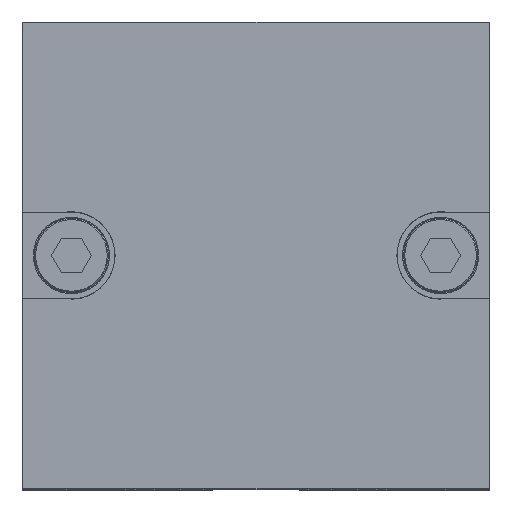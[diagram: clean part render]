
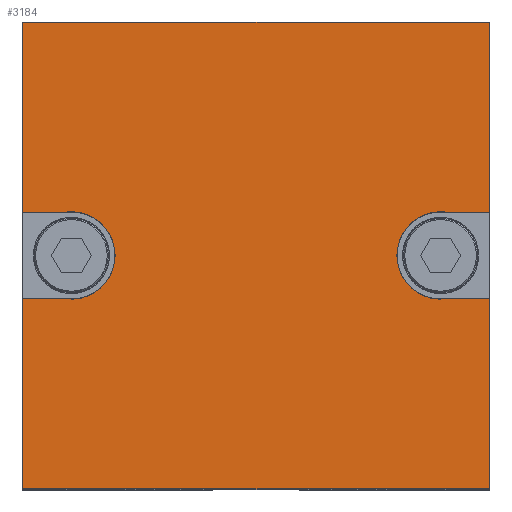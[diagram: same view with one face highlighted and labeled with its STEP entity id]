
A CAD part, top view. The second image highlights one B-rep face of the part: STEP entity #3184.
In plain terms, the highlighted planar face has unit normal (0, 0, 1).
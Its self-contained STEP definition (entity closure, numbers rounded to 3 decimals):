
#100 = CARTESIAN_POINT ( 'NONE',  ( 0., 0., 60. ) ) ;
#126 = CARTESIAN_POINT ( 'NONE',  ( -21.5, -4., 60. ) ) ;
#135 = VERTEX_POINT ( 'NONE', #6075 ) ;
#188 = ORIENTED_EDGE ( 'NONE', *, *, #1343, .T. ) ;
#217 = ORIENTED_EDGE ( 'NONE', *, *, #6146, .F. ) ;
#248 = CARTESIAN_POINT ( 'NONE',  ( 21.5, 21.5, 60. ) ) ;
#288 = VECTOR ( 'NONE', #6555, 1000. ) ;
#289 = CARTESIAN_POINT ( 'NONE',  ( -21.5, 4., 60. ) ) ;
#490 = CIRCLE ( 'NONE', #4621, 4.025 ) ;
#520 = VERTEX_POINT ( 'NONE', #8628 ) ;
#707 = VERTEX_POINT ( 'NONE', #1634 ) ;
#801 = CARTESIAN_POINT ( 'NONE',  ( -26., -4., 60. ) ) ;
#828 = CARTESIAN_POINT ( 'NONE',  ( 17.448, -4., 60. ) ) ;
#935 = EDGE_CURVE ( 'NONE', #2917, #135, #8279, .T. ) ;
#1035 = VECTOR ( 'NONE', #6581, 1000. ) ;
#1052 = LINE ( 'NONE', #7224, #8180 ) ;
#1171 = VERTEX_POINT ( 'NONE', #5531 ) ;
#1296 = ORIENTED_EDGE ( 'NONE', *, *, #6106, .F. ) ;
#1343 = EDGE_CURVE ( 'NONE', #5584, #2917, #4137, .T. ) ;
#1572 = DIRECTION ( 'NONE',  ( 0., -1., 0. ) ) ;
#1579 = LINE ( 'NONE', #5389, #3370 ) ;
#1609 = CARTESIAN_POINT ( 'NONE',  ( -21.5, 21.5, 60. ) ) ;
#1634 = CARTESIAN_POINT ( 'NONE',  ( 17.448, 4., 60. ) ) ;
#1692 = EDGE_CURVE ( 'NONE', #707, #6686, #3803, .T. ) ;
#1830 = AXIS2_PLACEMENT_3D ( 'NONE', #7841, #7815, #2990 ) ;
#1846 = VERTEX_POINT ( 'NONE', #4311 ) ;
#1915 = ORIENTED_EDGE ( 'NONE', *, *, #3923, .F. ) ;
#2059 = DIRECTION ( 'NONE',  ( 1., 0., 0. ) ) ;
#2060 = CARTESIAN_POINT ( 'NONE',  ( -12.975, 0., 60. ) ) ;
#2140 = LINE ( 'NONE', #3813, #288 ) ;
#2174 = CARTESIAN_POINT ( 'NONE',  ( 17., 0., 60. ) ) ;
#2226 = LINE ( 'NONE', #6729, #3480 ) ;
#2425 = CARTESIAN_POINT ( 'NONE',  ( -17.448, 4., 60. ) ) ;
#2802 = ORIENTED_EDGE ( 'NONE', *, *, #7578, .T. ) ;
#2814 = AXIS2_PLACEMENT_3D ( 'NONE', #100, #8364, #4206 ) ;
#2863 = EDGE_CURVE ( 'NONE', #1171, #520, #2140, .T. ) ;
#2873 = DIRECTION ( 'NONE',  ( 0., 0., 1. ) ) ;
#2917 = VERTEX_POINT ( 'NONE', #3253 ) ;
#2990 = DIRECTION ( 'NONE',  ( 1., 0., 0. ) ) ;
#3033 = DIRECTION ( 'NONE',  ( -1., 0., 0. ) ) ;
#3184 = ADVANCED_FACE ( 'NONE', ( #3202 ), #5516, .T. ) ;
#3202 = FACE_OUTER_BOUND ( 'NONE', #8064, .T. ) ;
#3250 = EDGE_CURVE ( 'NONE', #135, #5060, #8396, .T. ) ;
#3253 = CARTESIAN_POINT ( 'NONE',  ( 21.5, 21.5, 60. ) ) ;
#3289 = VECTOR ( 'NONE', #1572, 1000. ) ;
#3291 = VECTOR ( 'NONE', #2059, 1000. ) ;
#3311 = DIRECTION ( 'NONE',  ( 1., 0., 0. ) ) ;
#3363 = CARTESIAN_POINT ( 'NONE',  ( -17.448, -4., 60. ) ) ;
#3370 = VECTOR ( 'NONE', #5417, 1000. ) ;
#3377 = VERTEX_POINT ( 'NONE', #2425 ) ;
#3480 = VECTOR ( 'NONE', #3311, 1000. ) ;
#3752 = EDGE_CURVE ( 'NONE', #8332, #3377, #490, .T. ) ;
#3803 = CIRCLE ( 'NONE', #8198, 4.025 ) ;
#3813 = CARTESIAN_POINT ( 'NONE',  ( -21.5, -21.5, 60. ) ) ;
#3923 = EDGE_CURVE ( 'NONE', #3377, #5060, #4686, .T. ) ;
#3939 = LINE ( 'NONE', #801, #3291 ) ;
#4137 = LINE ( 'NONE', #248, #5667 ) ;
#4192 = ORIENTED_EDGE ( 'NONE', *, *, #5730, .F. ) ;
#4206 = DIRECTION ( 'NONE',  ( 1., 0., 0. ) ) ;
#4259 = EDGE_CURVE ( 'NONE', #6686, #1846, #2226, .T. ) ;
#4311 = CARTESIAN_POINT ( 'NONE',  ( 21.5, -4., 60. ) ) ;
#4621 = AXIS2_PLACEMENT_3D ( 'NONE', #6999, #2873, #7661 ) ;
#4634 = ORIENTED_EDGE ( 'NONE', *, *, #7431, .T. ) ;
#4655 = DIRECTION ( 'NONE',  ( -1., 0., 0. ) ) ;
#4686 = LINE ( 'NONE', #8743, #8385 ) ;
#5060 = VERTEX_POINT ( 'NONE', #289 ) ;
#5076 = DIRECTION ( 'NONE',  ( 0., 1., 0. ) ) ;
#5389 = CARTESIAN_POINT ( 'NONE',  ( -21.5, 21.5, 60. ) ) ;
#5417 = DIRECTION ( 'NONE',  ( 0., -1., 0. ) ) ;
#5516 = PLANE ( 'NONE',  #2814 ) ;
#5531 = CARTESIAN_POINT ( 'NONE',  ( -21.5, -21.5, 60. ) ) ;
#5580 = VERTEX_POINT ( 'NONE', #3363 ) ;
#5584 = VERTEX_POINT ( 'NONE', #8222 ) ;
#5667 = VECTOR ( 'NONE', #5076, 1000. ) ;
#5730 = EDGE_CURVE ( 'NONE', #5584, #707, #1052, .T. ) ;
#5751 = DIRECTION ( 'NONE',  ( 0., 0., 1. ) ) ;
#6075 = CARTESIAN_POINT ( 'NONE',  ( -21.5, 21.5, 60. ) ) ;
#6106 = EDGE_CURVE ( 'NONE', #6205, #5580, #3939, .T. ) ;
#6146 = EDGE_CURVE ( 'NONE', #5580, #8332, #6880, .T. ) ;
#6205 = VERTEX_POINT ( 'NONE', #126 ) ;
#6376 = ORIENTED_EDGE ( 'NONE', *, *, #2863, .T. ) ;
#6425 = VECTOR ( 'NONE', #4655, 1000. ) ;
#6555 = DIRECTION ( 'NONE',  ( 1., 0., 0. ) ) ;
#6581 = DIRECTION ( 'NONE',  ( 0., 1., 0. ) ) ;
#6600 = ORIENTED_EDGE ( 'NONE', *, *, #935, .T. ) ;
#6686 = VERTEX_POINT ( 'NONE', #828 ) ;
#6729 = CARTESIAN_POINT ( 'NONE',  ( 26., -4., 60. ) ) ;
#6880 = CIRCLE ( 'NONE', #1830, 4.025 ) ;
#6999 = CARTESIAN_POINT ( 'NONE',  ( -17., 0., 60. ) ) ;
#7224 = CARTESIAN_POINT ( 'NONE',  ( 26., 4., 60. ) ) ;
#7225 = ORIENTED_EDGE ( 'NONE', *, *, #4259, .F. ) ;
#7334 = DIRECTION ( 'NONE',  ( -1., 0., 0. ) ) ;
#7431 = EDGE_CURVE ( 'NONE', #520, #1846, #8498, .T. ) ;
#7433 = CARTESIAN_POINT ( 'NONE',  ( -21.5, 21.5, 60. ) ) ;
#7578 = EDGE_CURVE ( 'NONE', #6205, #1171, #1579, .T. ) ;
#7661 = DIRECTION ( 'NONE',  ( 1., 0., 0. ) ) ;
#7758 = DIRECTION ( 'NONE',  ( 1., 0., 0. ) ) ;
#7774 = ORIENTED_EDGE ( 'NONE', *, *, #3250, .T. ) ;
#7815 = DIRECTION ( 'NONE',  ( 0., 0., 1. ) ) ;
#7841 = CARTESIAN_POINT ( 'NONE',  ( -17., 0., 60. ) ) ;
#8064 = EDGE_LOOP ( 'NONE', ( #1296, #2802, #6376, #4634, #7225, #8415, #4192, #188, #6600, #7774, #1915, #8949, #217 ) ) ;
#8180 = VECTOR ( 'NONE', #3033, 1000. ) ;
#8198 = AXIS2_PLACEMENT_3D ( 'NONE', #2174, #5751, #7758 ) ;
#8222 = CARTESIAN_POINT ( 'NONE',  ( 21.5, 4., 60. ) ) ;
#8279 = LINE ( 'NONE', #7433, #6425 ) ;
#8332 = VERTEX_POINT ( 'NONE', #2060 ) ;
#8364 = DIRECTION ( 'NONE',  ( 0., 0., 1. ) ) ;
#8385 = VECTOR ( 'NONE', #7334, 1000. ) ;
#8396 = LINE ( 'NONE', #1609, #3289 ) ;
#8415 = ORIENTED_EDGE ( 'NONE', *, *, #1692, .F. ) ;
#8498 = LINE ( 'NONE', #8675, #1035 ) ;
#8628 = CARTESIAN_POINT ( 'NONE',  ( 21.5, -21.5, 60. ) ) ;
#8675 = CARTESIAN_POINT ( 'NONE',  ( 21.5, 21.5, 60. ) ) ;
#8743 = CARTESIAN_POINT ( 'NONE',  ( -26., 4., 60. ) ) ;
#8949 = ORIENTED_EDGE ( 'NONE', *, *, #3752, .F. ) ;
